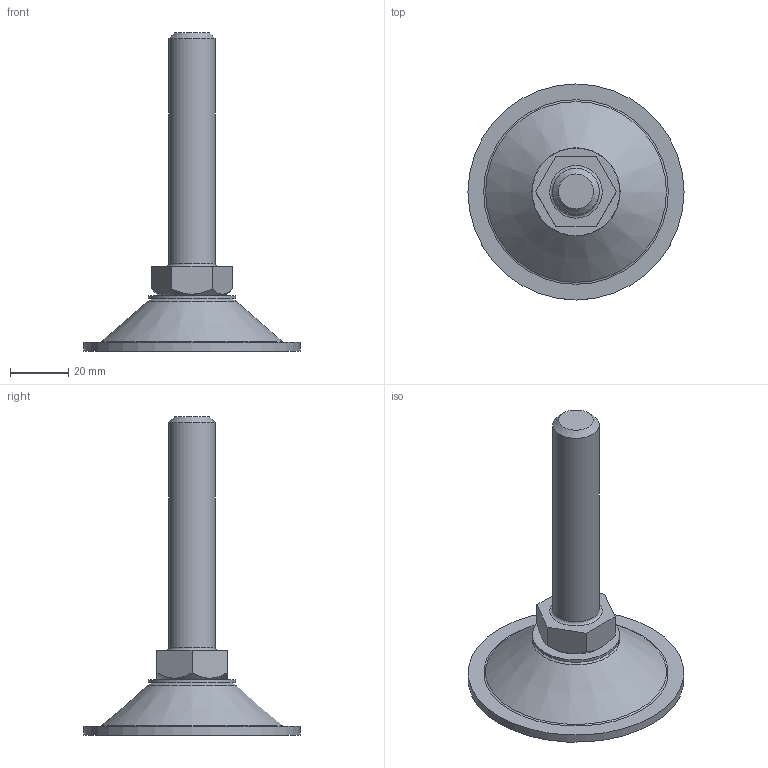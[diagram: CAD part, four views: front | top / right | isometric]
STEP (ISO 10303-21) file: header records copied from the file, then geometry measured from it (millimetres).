
FILE_DESCRIPTION(/* description */ (''),/* implementation_level */ '2;1');
FILE_NAME(/* name */ 'D:\조절자\PF\PF-M16-80L.stp',/* time_stamp */ '2016-03-14T14:56:19+09:00',/* author */ ('GS-DT-1-001'),/* organization */ (''),/* preprocessor_version */ 'ST-DEVELOPER v15.6',/* originating_system */ 'Autodesk Inventor LT ',/* authorisation */ '');
FILE_SCHEMA (('AUTOMOTIVE_DESIGN { 1 0 10303 214 3 1 1 }'));
Length unit declared in the file: millimetre
Products named in the file (1): PF-M16-80L
Bounding box: 74 x 74 x 109 mm (x, y, z)
Volume: 37542.8 mm3; surface area: 18989.8 mm2
Topology: 4 solids, 4 shells, 37 faces, 70 edges, 45 vertices
Faces by surface type: plane 18, cylinder 8, cone 6, torus 5
Full cylindrical faces by diameter (mm): 6.912 x1, 8 x1, 8.2 x1, 8.3 x1, 16 x2, 30 x1, 74 x1
Entity records: 815 total; most frequent: DIRECTION 144, CARTESIAN_POINT 136, ORIENTED_EDGE 92, AXIS2_PLACEMENT_3D 66, EDGE_LOOP 64, EDGE_CURVE 46, VERTEX_POINT 40, FACE_OUTER_BOUND 37
